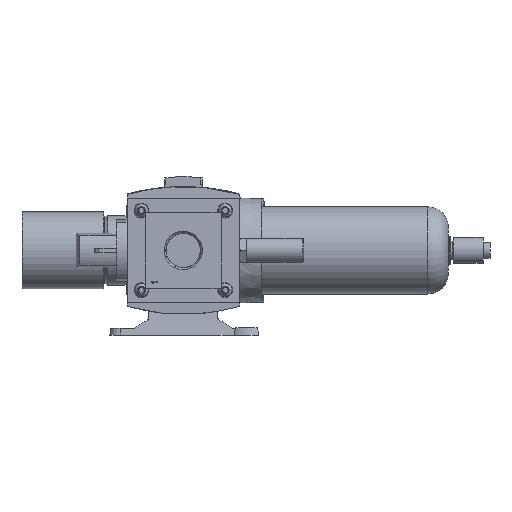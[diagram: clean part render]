
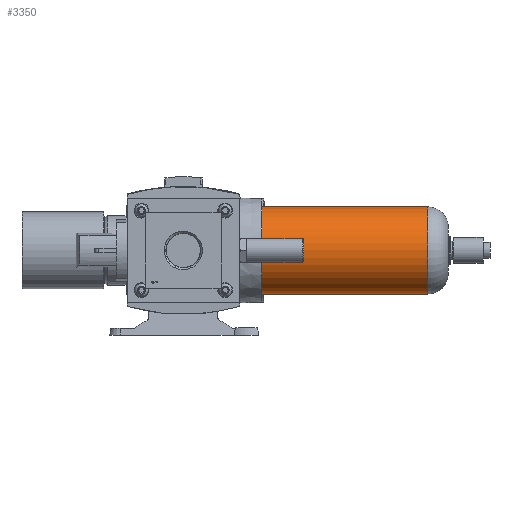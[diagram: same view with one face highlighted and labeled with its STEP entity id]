
A CAD part, left-side view. The second image highlights one B-rep face of the part: STEP entity #3350.
In plain terms, the highlighted cylindrical face has radius 31.75 mm (diameter 63.5 mm), a full revolution.
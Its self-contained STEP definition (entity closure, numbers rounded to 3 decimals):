
#3350 = ADVANCED_FACE( '', ( #6795, #6796 ), #6797, .T. );
#6795 = FACE_OUTER_BOUND( '', #10391, .T. );
#6796 = FACE_OUTER_BOUND( '', #10392, .T. );
#6797 = CYLINDRICAL_SURFACE( '', #10393, 31.75 );
#10391 = EDGE_LOOP( '', ( #18713 ) );
#10392 = EDGE_LOOP( '', ( #18714 ) );
#10393 = AXIS2_PLACEMENT_3D( '', #18715, #18716, #18717 );
#18713 = ORIENTED_EDGE( '', *, *, #22653, .F. );
#18714 = ORIENTED_EDGE( '', *, *, #23375, .T. );
#18715 = CARTESIAN_POINT( '', ( 0., -136.7, 0. ) );
#18716 = DIRECTION( '', ( 0., 1., 0. ) );
#18717 = DIRECTION( '', ( 0., 0., -1. ) );
#22653 = EDGE_CURVE( '', #27631, #27631, #27632, .T. );
#23375 = EDGE_CURVE( '', #28558, #28558, #28559, .T. );
#27631 = VERTEX_POINT( '', #34742 );
#27632 = CIRCLE( '', #34743, 31.75 );
#28558 = VERTEX_POINT( '', #36098 );
#28559 = CIRCLE( '', #36099, 31.75 );
#34742 = CARTESIAN_POINT( '', ( 0., -121.1, -31.75 ) );
#34743 = AXIS2_PLACEMENT_3D( '', #39667, #39668, #39669 );
#36098 = CARTESIAN_POINT( '', ( 0., 0., -31.75 ) );
#36099 = AXIS2_PLACEMENT_3D( '', #40404, #40405, #40406 );
#39667 = CARTESIAN_POINT( '', ( 0., -121.1, 0. ) );
#39668 = DIRECTION( '', ( 0., -1., 0. ) );
#39669 = DIRECTION( '', ( 0., 0., -1. ) );
#40404 = CARTESIAN_POINT( '', ( 0., 0., 0. ) );
#40405 = DIRECTION( '', ( 0., -1., 0. ) );
#40406 = DIRECTION( '', ( 0., 0., -1. ) );
